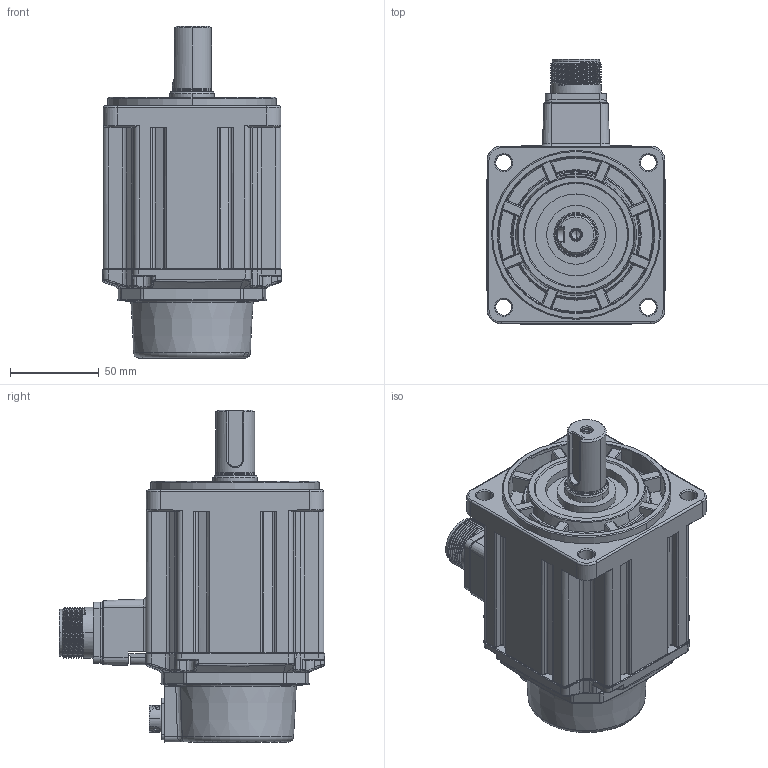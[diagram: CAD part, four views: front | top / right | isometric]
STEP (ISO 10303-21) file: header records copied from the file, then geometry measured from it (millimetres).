
FILE_DESCRIPTION((''),'2;1');
FILE_NAME('ASM0002_ASM','2022-05-20T13:33:37',('CHHSU.HSU'),(''),'CREO PARAMETRIC BY PTC INC, 2020454','CREO PARAMETRIC BY PTC INC, 2020454','');
FILE_SCHEMA(('AUTOMOTIVE_DESIGN { 1 0 10303 214 1 1 1 1 }'));
Products named in the file (3): ECM-B3M-CX1010RS1; MS3102A18-10P; ASM0002_ASM
Assembly tree (2 placements, depth 2):
  ASM0002_ASM
    ECM-B3M-CX1010RS1
    MS3102A18-10P
Bounding box: 100.74 x 149.27 x 186.8 mm (x, y, z)
Volume: 1110351.1 mm3; surface area: 116692.7 mm2
Topology: 4 solids, 18 shells, 2646 faces, 7184 edges, 4650 vertices
Faces by surface type: plane 1494, cylinder 579, cone 234, bspline 184, torus 79, sphere 60, extrusion 16
Entity records: 104231 total; most frequent: CARTESIAN_POINT 30996, ORIENTED_EDGE 14206, DIRECTION 12794, EDGE_CURVE 7104, VERTEX_POINT 4650, VECTOR 4543, LINE 4527, AXIS2_PLACEMENT_3D 4121
